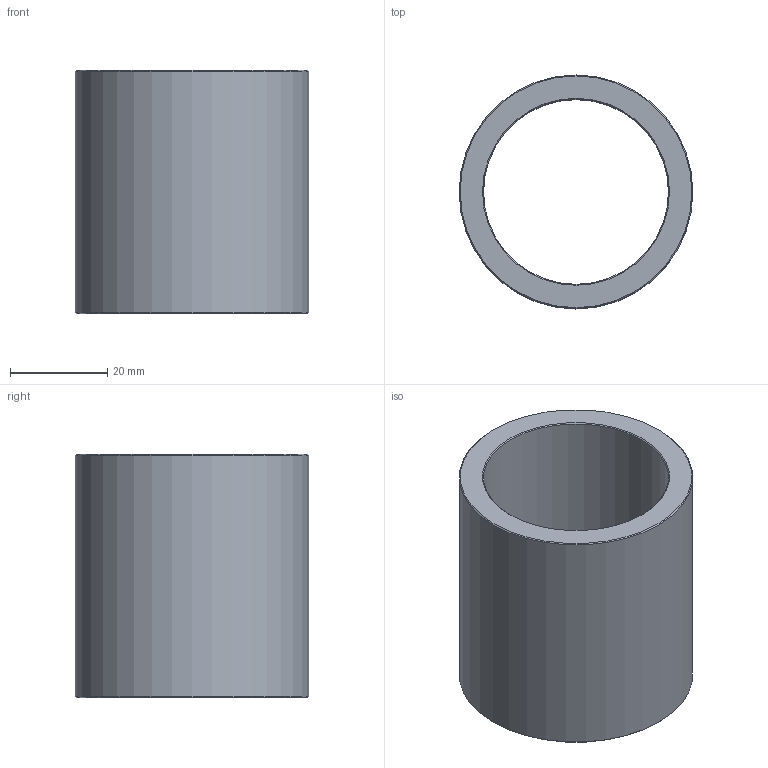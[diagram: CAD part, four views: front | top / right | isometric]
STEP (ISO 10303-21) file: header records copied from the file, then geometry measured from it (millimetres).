
FILE_DESCRIPTION(('STEP AP203'),'1');
FILE_NAME('C:/Users/Rodrigo/Desktop/GA5.038.050-1.step','2016-11-07T18:00:42',(' '),(' '),'Spatial InterOp 3D',' ',' ');
FILE_SCHEMA(('CONFIG_CONTROL_DESIGN'));
Length unit declared in the file: millimetre
Products named in the file (1): 1
Bounding box: 48 x 48 x 50 mm (x, y, z)
Volume: 33761.3 mm3; surface area: 14796.4 mm2
Topology: 1 solids, 1 shells, 8 faces, 14 edges, 8 vertices
Faces by surface type: cone 4, cylinder 2, plane 2
Full cylindrical faces by diameter (mm): 38 x1, 48 x1
Entity records: 212 total; most frequent: DIRECTION 34, CARTESIAN_POINT 25, AXIS2_PLACEMENT_3D 17, EDGE_LOOP 16, ORIENTED_EDGE 16, FACE_OUTER_BOUND 10, ADVANCED_FACE 8, EDGE_CURVE 8
